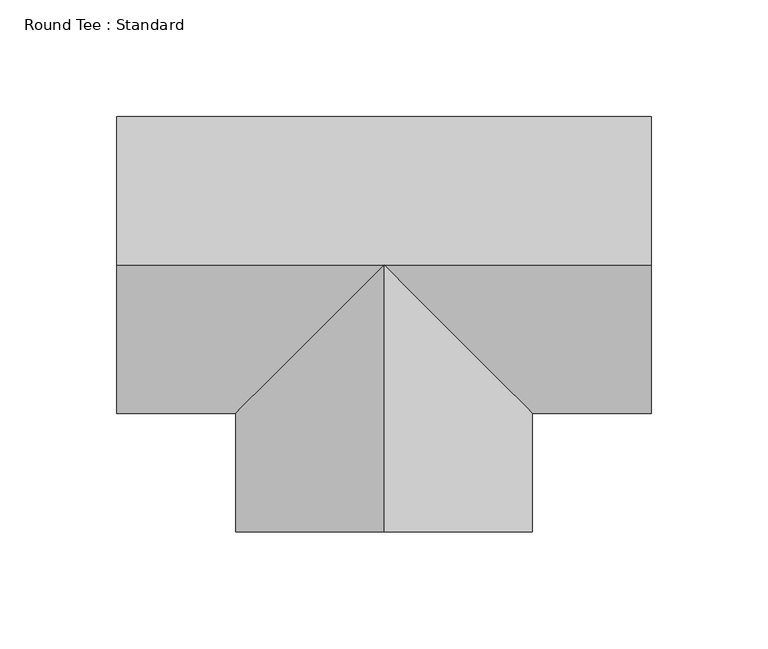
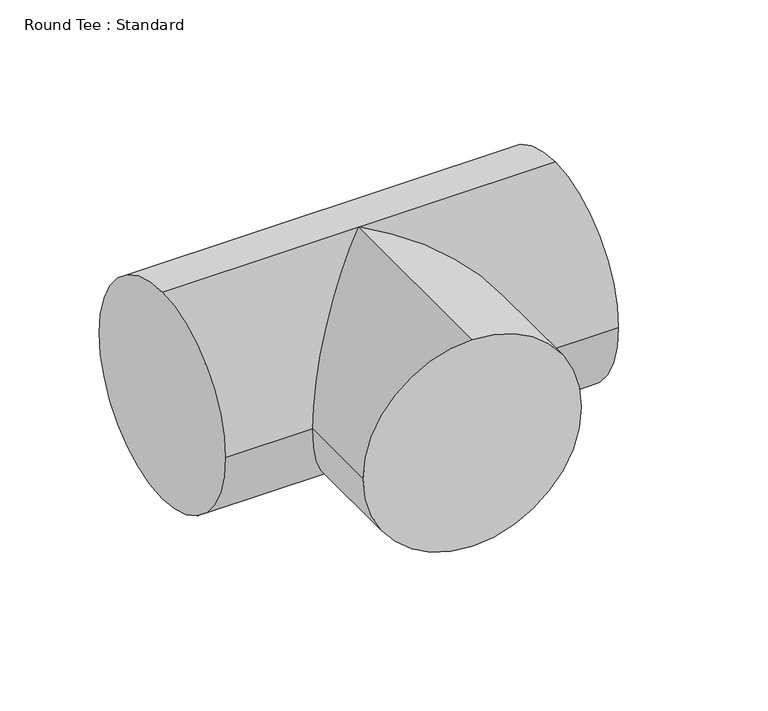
"""IFC4 building model written with IfcOpenShell, lengths in millimetres: duct fitting geometry, Round Tee : Standard."""

from ifc_helpers import new_model, si_unit, frame, origin, place, context, project, spatial, circle_curve, ellipse_curve, source, transform, mapped, element, save
from ifc_brep_helpers import plane_surface, cylinder_surface, advanced_brep


def round_tee_standard_ef45fe1c(model_context):
    return source(origin(), model_context, "Body", "AdvancedBrep", [
        advanced_brep(
        [(0.0, -114.3, 63.5), (-63.5, -114.3, 0.0), (0.0, -114.3, -63.5), (63.5, -114.3, 0.0), (63.5, -63.5, 0.0), (0.0, 0.0, 63.5), (0.0, 0.0, -63.5), (-63.5, -63.5, 0.0), (-114.3, 0.0, 63.5), (-114.3, 63.5, 0.0), (-114.3, 0.0, -63.5), (-114.3, -63.5, 0.0), (114.3, 0.0, 63.5), (114.3, -63.5, 0.0), (114.3, 0.0, -63.5), (114.3, 63.5, 0.0)],
        [
            (0, 1, circle_curve(frame((0.0, -114.3, 0.0), z_axis=(0.0, -1.0, 0.0), x_axis=(1.0, 0.0, 0.0)), 63.5)),
            (1, 2, circle_curve(frame((0.0, -114.3, 0.0), z_axis=(0.0, -1.0, 0.0), x_axis=(1.0, 0.0, 0.0)), 63.5)),
            (2, 3, circle_curve(frame((0.0, -114.3, 0.0), z_axis=(0.0, -1.0, 0.0), x_axis=(1.0, 0.0, 0.0)), 63.5)),
            (3, 0, circle_curve(frame((0.0, -114.3, 0.0), z_axis=(0.0, -1.0, 0.0), x_axis=(1.0, 0.0, 0.0)), 63.5)),
            (3, 4),
            (4, 5, ellipse_curve(frame((0.0, 0.0, 0.0), z_axis=(-0.7071067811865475, -0.7071067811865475, 0.0), x_axis=(-0.7071067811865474, 0.7071067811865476, 0.0)), 89.8025612, 63.5)),
            (5, 0),
            (2, 6),
            (6, 4, ellipse_curve(frame((0.0, 0.0, 0.0), z_axis=(-0.7071067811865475, -0.7071067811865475, 0.0), x_axis=(-0.7071067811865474, 0.7071067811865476, 0.0)), 89.8025612, 63.5)),
            (1, 7),
            (7, 6, ellipse_curve(frame((0.0, 0.0, 0.0), z_axis=(0.7071067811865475, -0.7071067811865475, 0.0), x_axis=(0.7071067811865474, 0.7071067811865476, 0.0)), 89.8025612, 63.5)),
            (5, 7, ellipse_curve(frame((0.0, 0.0, 0.0), z_axis=(0.7071067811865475, -0.7071067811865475, 0.0), x_axis=(0.7071067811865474, 0.7071067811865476, 0.0)), 89.8025612, 63.5)),
            (8, 9, circle_curve(frame((-114.3, 0.0, 0.0), z_axis=(-1.0, 0.0, 0.0), x_axis=(0.0, 1.0, 0.0)), 63.5)),
            (9, 10, circle_curve(frame((-114.3, 0.0, 0.0), z_axis=(-1.0, 0.0, 0.0), x_axis=(0.0, 1.0, 0.0)), 63.5)),
            (10, 11, circle_curve(frame((-114.3, 0.0, 0.0), z_axis=(-1.0, 0.0, 0.0), x_axis=(0.0, 1.0, 0.0)), 63.5)),
            (11, 8, circle_curve(frame((-114.3, 0.0, 0.0), z_axis=(-1.0, 0.0, 0.0), x_axis=(0.0, 1.0, 0.0)), 63.5)),
            (12, 13, circle_curve(frame((114.3, 0.0, 0.0), z_axis=(1.0, 0.0, 0.0), x_axis=(0.0, 1.0, 0.0)), 63.5)),
            (13, 14, circle_curve(frame((114.3, 0.0, 0.0), z_axis=(1.0, 0.0, 0.0), x_axis=(0.0, 1.0, 0.0)), 63.5)),
            (14, 15, circle_curve(frame((114.3, 0.0, 0.0), z_axis=(1.0, 0.0, 0.0), x_axis=(0.0, 1.0, 0.0)), 63.5)),
            (15, 12, circle_curve(frame((114.3, 0.0, 0.0), z_axis=(1.0, 0.0, 0.0), x_axis=(0.0, 1.0, 0.0)), 63.5)),
            (8, 5),
            (5, 12),
            (15, 9),
            (14, 6),
            (6, 10),
            (7, 11),
            (13, 4),
        ],
        [
            plane_surface(frame((0.0, -114.3, 0.0), z_axis=(0.0, -1.0, 0.0), x_axis=(0.0, 0.0, 1.0))),
            cylinder_surface(frame((0.0, 0.0, 0.0), z_axis=(0.0, 1.0, 0.0), x_axis=(1.0, 0.0, 0.0)), 63.5),
            plane_surface(frame((-114.3, 0.0, 0.0), z_axis=(-1.0, 0.0, 0.0), x_axis=(0.0, 0.0, 1.0))),
            plane_surface(frame((114.3, 0.0, 0.0), z_axis=(1.0, 0.0, 0.0), x_axis=(0.0, 0.0, 1.0))),
            cylinder_surface(frame((-114.3, 0.0, 0.0), z_axis=(-1.0, 0.0, 0.0), x_axis=(0.0, 1.0, 0.0)), 63.5),
        ],
        [
            (0, [[1, 2, 3, 4]]),
            (1, [[-4, 5, 6, 7]]),
            (1, [[-3, 8, 9, -5]]),
            (1, [[-2, 10, 11, -8]]),
            (1, [[-1, -7, 12, -10]]),
            (2, [[13, 14, 15, 16]]),
            (3, [[17, 18, 19, 20]]),
            (4, [[-13, 21, 22, -20, 23]]),
            (4, [[-14, -23, -19, 24, 25]]),
            (4, [[-15, -25, -11, 26]]),
            (4, [[-18, 27, -9, -24]]),
            (4, [[-16, -26, -12, -21]]),
            (4, [[-17, -22, -6, -27]]),
        ],
    ),
    ])


if __name__ == "__main__":
    model = new_model("IFC4")
    model_context = context("Model", 3, world=origin())
    ifc_project = project(units=[si_unit("LENGTHUNIT", "METRE", prefix="MILLI")], contexts=[model_context])
    site = spatial("IfcSite", under=ifc_project)
    building = spatial("IfcBuilding", under=site)
    placement = place(None, origin())
    round_tee_standard_shape = round_tee_standard_ef45fe1c(model_context)
    element("IfcDuctFitting", 1, ObjectType="Round Tee : Standard", at=placement, inside=building, context=model_context, shape_type="MappedRepresentation", body=[
        mapped(round_tee_standard_shape, transform((0.0, 0.0, 0.0), x_axis=(1.0, 0.0, 0.0), y_axis=(0.0, 1.0, 0.0), z_axis=(0.0, 0.0, 1.0))),
    ])
    save(model, "model.ifc")
